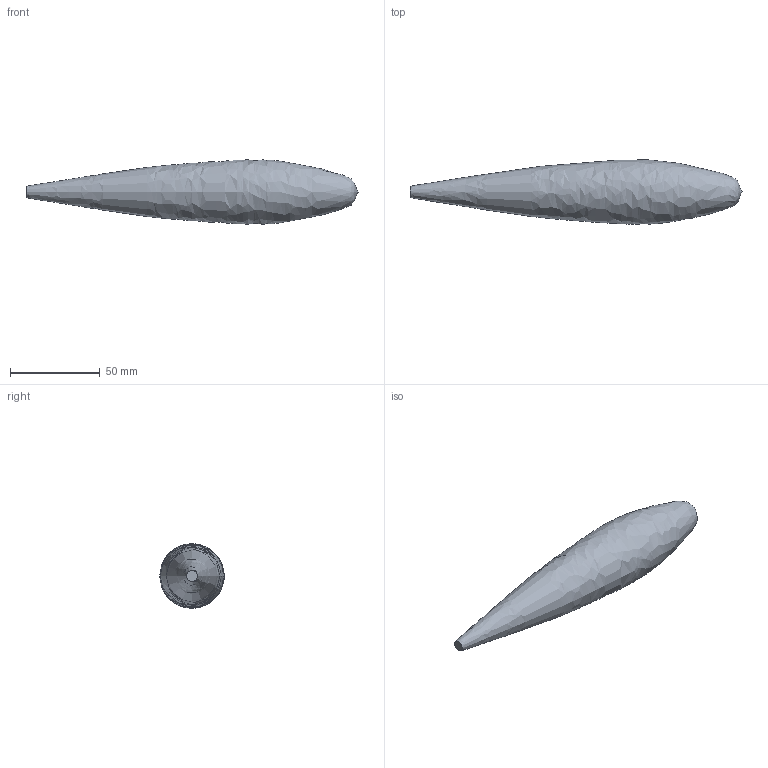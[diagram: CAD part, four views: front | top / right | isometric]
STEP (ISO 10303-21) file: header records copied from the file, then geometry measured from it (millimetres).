
FILE_DESCRIPTION((''),'2;1');
FILE_NAME('Y:\Microsonic\100436 Sensoren\Garantie\G2_Daten\050823_Austauschformate\STP\Schallfeld Betriebstastw 150mm Rohr.stp','2005-08-23T14:52:41',('ohle'),(''),'Autodesk Inventor 7','Autodesk Inventor 7','');
FILE_SCHEMA(('AUTOMOTIVE_DESIGN { 1 0 10303 214 1 1 1 1 }'));
Length unit declared in the file: millimetre
Products named in the file (1): Schallfeld Betriebstastw 150mm Rohr
Bounding box: 185 x 35.91 x 35.93 mm (x, y, z)
Volume: 105298.2 mm3; surface area: 15046.6 mm2
Topology: 1 solids, 1 shells, 2 faces, 3 edges, 2 vertices
Faces by surface type: bspline 1, plane 1
Entity records: 168 total; most frequent: CARTESIAN_POINT 115, DIRECTION 6, ORIENTED_EDGE 4, AXIS2_PLACEMENT_3D 3, VERTEX_POINT 2, EDGE_CURVE 2, EDGE_LOOP 2, FACE_OUTER_BOUND 2
